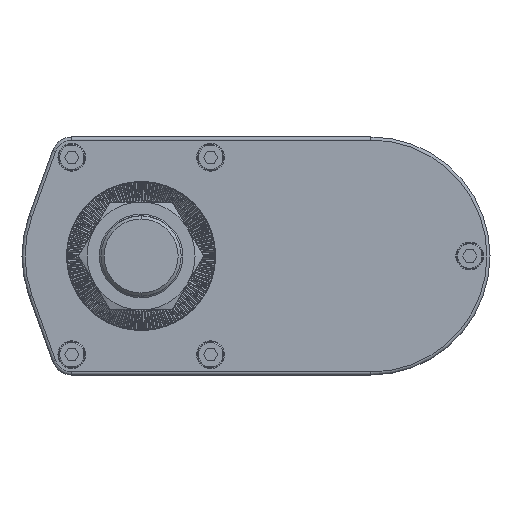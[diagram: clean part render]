
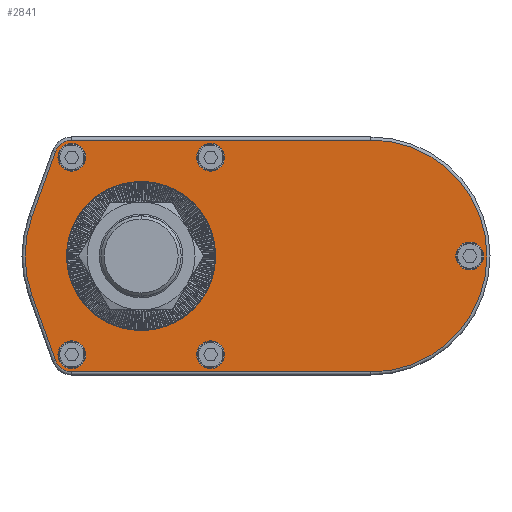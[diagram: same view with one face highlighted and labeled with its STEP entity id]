
A CAD part, left-side view. The second image highlights one B-rep face of the part: STEP entity #2841.
In plain terms, the highlighted planar face has unit normal (-1, 0, 0).
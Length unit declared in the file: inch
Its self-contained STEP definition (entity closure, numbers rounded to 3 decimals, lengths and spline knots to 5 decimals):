
#2841=ADVANCED_FACE('',(#6754,#6755,#6756,#6757,#6758,#6759,#6760),#6761,.F.);
#6754=FACE_BOUND('',#12010,.T.);
#6755=FACE_BOUND('',#12011,.T.);
#6756=FACE_BOUND('',#12012,.T.);
#6757=FACE_BOUND('',#12013,.T.);
#6758=FACE_BOUND('',#12014,.T.);
#6759=FACE_BOUND('',#12015,.T.);
#6760=FACE_OUTER_BOUND('',#12016,.T.);
#6761=PLANE('',#12017);
#12010=EDGE_LOOP('',(#20492,#20493));
#12011=EDGE_LOOP('',(#20494,#20495));
#12012=EDGE_LOOP('',(#20496,#20497));
#12013=EDGE_LOOP('',(#20498,#20499));
#12014=EDGE_LOOP('',(#20500,#20501));
#12015=EDGE_LOOP('',(#20502,#20503));
#12016=EDGE_LOOP('',(#20504,#20505,#20506,#20507,#20508,#20509,#20510,#20511));
#12017=AXIS2_PLACEMENT_3D('',#20512,#20513,#20514);
#20492=ORIENTED_EDGE('',*,*,#32853,.F.);
#20493=ORIENTED_EDGE('',*,*,#32854,.F.);
#20494=ORIENTED_EDGE('',*,*,#32855,.T.);
#20495=ORIENTED_EDGE('',*,*,#32856,.T.);
#20496=ORIENTED_EDGE('',*,*,#31248,.T.);
#20497=ORIENTED_EDGE('',*,*,#32857,.T.);
#20498=ORIENTED_EDGE('',*,*,#32858,.T.);
#20499=ORIENTED_EDGE('',*,*,#32859,.T.);
#20500=ORIENTED_EDGE('',*,*,#32860,.T.);
#20501=ORIENTED_EDGE('',*,*,#31695,.T.);
#20502=ORIENTED_EDGE('',*,*,#32861,.T.);
#20503=ORIENTED_EDGE('',*,*,#32862,.T.);
#20504=ORIENTED_EDGE('',*,*,#32863,.T.);
#20505=ORIENTED_EDGE('',*,*,#32864,.T.);
#20506=ORIENTED_EDGE('',*,*,#32865,.T.);
#20507=ORIENTED_EDGE('',*,*,#32695,.T.);
#20508=ORIENTED_EDGE('',*,*,#32866,.T.);
#20509=ORIENTED_EDGE('',*,*,#32867,.T.);
#20510=ORIENTED_EDGE('',*,*,#32868,.T.);
#20511=ORIENTED_EDGE('',*,*,#32869,.T.);
#20512=CARTESIAN_POINT('',(0.0,-2.93307,0.0));
#20513=DIRECTION('',(1.0,0.0,0.0));
#20514=DIRECTION('',(0.0,1.0,-0.0));
#31248=EDGE_CURVE('',#37787,#37791,#37793,.T.);
#31695=EDGE_CURVE('',#38508,#38506,#38509,.T.);
#32695=EDGE_CURVE('',#40038,#40036,#40039,.F.);
#32853=EDGE_CURVE('',#40267,#40268,#40269,.F.);
#32854=EDGE_CURVE('',#40268,#40267,#40270,.F.);
#32855=EDGE_CURVE('',#40271,#40272,#40273,.T.);
#32856=EDGE_CURVE('',#40272,#40271,#40274,.T.);
#32857=EDGE_CURVE('',#37791,#37787,#40275,.T.);
#32858=EDGE_CURVE('',#40276,#40277,#40278,.T.);
#32859=EDGE_CURVE('',#40277,#40276,#40279,.T.);
#32860=EDGE_CURVE('',#38506,#38508,#40280,.T.);
#32861=EDGE_CURVE('',#40281,#40282,#40283,.T.);
#32862=EDGE_CURVE('',#40282,#40281,#40284,.T.);
#32863=EDGE_CURVE('',#40285,#40286,#40287,.F.);
#32864=EDGE_CURVE('',#40286,#40288,#40289,.F.);
#32865=EDGE_CURVE('',#40288,#40038,#40290,.F.);
#32866=EDGE_CURVE('',#40036,#40291,#40292,.F.);
#32867=EDGE_CURVE('',#40291,#40293,#40294,.F.);
#32868=EDGE_CURVE('',#40293,#40295,#40296,.F.);
#32869=EDGE_CURVE('',#40295,#40285,#40297,.F.);
#37787=VERTEX_POINT('',#46583);
#37791=VERTEX_POINT('',#46588);
#37793=CIRCLE('',#46591,0.17717);
#38506=VERTEX_POINT('',#47555);
#38508=VERTEX_POINT('',#47558);
#38509=CIRCLE('',#47559,0.17717);
#40036=VERTEX_POINT('',#49675);
#40038=VERTEX_POINT('',#49677);
#40039=LINE('',#49678,#49679);
#40267=VERTEX_POINT('',#49973);
#40268=VERTEX_POINT('',#49974);
#40269=CIRCLE('',#49975,0.94882);
#40270=CIRCLE('',#49976,0.94882);
#40271=VERTEX_POINT('',#49977);
#40272=VERTEX_POINT('',#49978);
#40273=CIRCLE('',#49979,0.17717);
#40274=CIRCLE('',#49980,0.17717);
#40275=CIRCLE('',#49981,0.17717);
#40276=VERTEX_POINT('',#49982);
#40277=VERTEX_POINT('',#49983);
#40278=CIRCLE('',#49984,0.17717);
#40279=CIRCLE('',#49985,0.17717);
#40280=CIRCLE('',#49986,0.17717);
#40281=VERTEX_POINT('',#49987);
#40282=VERTEX_POINT('',#49988);
#40283=CIRCLE('',#49989,0.17717);
#40284=CIRCLE('',#49990,0.17717);
#40285=VERTEX_POINT('',#49991);
#40286=VERTEX_POINT('',#49992);
#40287=CIRCLE('',#49993,1.48031);
#40288=VERTEX_POINT('',#49994);
#40289=LINE('',#49995,#49996);
#40290=CIRCLE('',#49997,0.22047);
#40291=VERTEX_POINT('',#49998);
#40292=CIRCLE('',#49999,1.48031);
#40293=VERTEX_POINT('',#50000);
#40294=LINE('',#50001,#50002);
#40295=VERTEX_POINT('',#50003);
#40296=CIRCLE('',#50004,0.22047);
#40297=LINE('',#50005,#50006);
#46583=CARTESIAN_POINT('',(0.0,0.88425,1.08268));
#46588=CARTESIAN_POINT('',(0.0,0.88425,1.43701));
#46591=AXIS2_PLACEMENT_3D('',#56069,#56070,#56071);
#47555=CARTESIAN_POINT('',(0.0,-0.8874,1.08268));
#47558=CARTESIAN_POINT('',(0.0,-0.8874,1.43701));
#47559=AXIS2_PLACEMENT_3D('',#56647,#56648,#56649);
#49675=CARTESIAN_POINT('',(0.0,-2.93307,-1.48031));
#49677=CARTESIAN_POINT('',(0.0,0.88425,-1.48031));
#49678=CARTESIAN_POINT('',(0.0,-2.93307,-1.48031));
#49679=VECTOR('',#57877,39.37008);
#49973=CARTESIAN_POINT('',(0.0,0.0,-0.94882));
#49974=CARTESIAN_POINT('',(0.0,0.,0.94882));
#49975=AXIS2_PLACEMENT_3D('',#58127,#58128,#58129);
#49976=AXIS2_PLACEMENT_3D('',#58130,#58131,#58132);
#49977=CARTESIAN_POINT('',(0.0,-4.19449,-0.17717));
#49978=CARTESIAN_POINT('',(0.0,-4.19449,0.17717));
#49979=AXIS2_PLACEMENT_3D('',#58133,#58134,#58135);
#49980=AXIS2_PLACEMENT_3D('',#58136,#58137,#58138);
#49981=AXIS2_PLACEMENT_3D('',#58139,#58140,#58141);
#49982=CARTESIAN_POINT('',(0.0,-0.8874,-1.43701));
#49983=CARTESIAN_POINT('',(0.0,-0.8874,-1.08268));
#49984=AXIS2_PLACEMENT_3D('',#58142,#58143,#58144);
#49985=AXIS2_PLACEMENT_3D('',#58145,#58146,#58147);
#49986=AXIS2_PLACEMENT_3D('',#58148,#58149,#58150);
#49987=CARTESIAN_POINT('',(0.0,0.88425,-1.43701));
#49988=CARTESIAN_POINT('',(0.0,0.88425,-1.08268));
#49989=AXIS2_PLACEMENT_3D('',#58151,#58152,#58153);
#49990=AXIS2_PLACEMENT_3D('',#58154,#58155,#58156);
#49991=CARTESIAN_POINT('',(0.0,1.39217,0.50319));
#49992=CARTESIAN_POINT('',(0.0,1.39217,-0.50319));
#49993=AXIS2_PLACEMENT_3D('',#58157,#58158,#58159);
#49994=CARTESIAN_POINT('',(0.0,1.0916,-1.33479));
#49995=CARTESIAN_POINT('',(0.0,1.0916,-1.33479));
#49996=VECTOR('',#58160,39.37008);
#49997=AXIS2_PLACEMENT_3D('',#58161,#58162,#58163);
#49998=CARTESIAN_POINT('',(0.0,-2.93307,1.48031));
#49999=AXIS2_PLACEMENT_3D('',#58164,#58165,#58166);
#50000=CARTESIAN_POINT('',(0.0,0.88425,1.48031));
#50001=CARTESIAN_POINT('',(0.0,0.88425,1.48031));
#50002=VECTOR('',#58167,39.37008);
#50003=CARTESIAN_POINT('',(0.0,1.0916,1.33479));
#50004=AXIS2_PLACEMENT_3D('',#58168,#58169,#58170);
#50005=CARTESIAN_POINT('',(0.0,1.39217,0.50319));
#50006=VECTOR('',#58171,39.37008);
#56069=CARTESIAN_POINT('',(0.0,0.88425,1.25984));
#56070=DIRECTION('',(1.0,0.0,0.0));
#56071=DIRECTION('',(0.0,0.0,-1.0));
#56647=CARTESIAN_POINT('',(0.0,-0.8874,1.25984));
#56648=DIRECTION('',(1.0,0.0,0.0));
#56649=DIRECTION('',(0.0,0.0,-1.0));
#57877=DIRECTION('',(0.0,1.0,0.0));
#58127=CARTESIAN_POINT('',(0.0,0.0,0.0));
#58128=DIRECTION('',(1.0,0.0,0.0));
#58129=DIRECTION('',(0.0,0.0,-1.0));
#58130=CARTESIAN_POINT('',(0.0,0.0,0.0));
#58131=DIRECTION('',(1.0,0.0,0.0));
#58132=DIRECTION('',(0.0,0.0,-1.0));
#58133=CARTESIAN_POINT('',(0.0,-4.19449,0.0));
#58134=DIRECTION('',(1.0,0.0,0.0));
#58135=DIRECTION('',(0.0,0.0,-1.0));
#58136=CARTESIAN_POINT('',(0.0,-4.19449,0.0));
#58137=DIRECTION('',(1.0,0.0,0.0));
#58138=DIRECTION('',(0.0,0.0,-1.0));
#58139=CARTESIAN_POINT('',(0.0,0.88425,1.25984));
#58140=DIRECTION('',(1.0,0.0,0.0));
#58141=DIRECTION('',(0.0,0.0,-1.0));
#58142=CARTESIAN_POINT('',(0.0,-0.8874,-1.25984));
#58143=DIRECTION('',(1.0,0.0,0.0));
#58144=DIRECTION('',(0.0,0.0,-1.0));
#58145=CARTESIAN_POINT('',(0.0,-0.8874,-1.25984));
#58146=DIRECTION('',(1.0,0.0,0.0));
#58147=DIRECTION('',(0.0,0.0,-1.0));
#58148=CARTESIAN_POINT('',(0.0,-0.8874,1.25984));
#58149=DIRECTION('',(1.0,0.0,0.0));
#58150=DIRECTION('',(0.0,0.0,-1.0));
#58151=CARTESIAN_POINT('',(0.0,0.88425,-1.25984));
#58152=DIRECTION('',(1.0,0.0,0.0));
#58153=DIRECTION('',(0.0,0.0,-1.0));
#58154=CARTESIAN_POINT('',(0.0,0.88425,-1.25984));
#58155=DIRECTION('',(1.0,0.0,0.0));
#58156=DIRECTION('',(0.0,0.0,-1.0));
#58157=CARTESIAN_POINT('',(0.0,0.,0.0));
#58158=DIRECTION('',(1.0,0.0,0.0));
#58159=DIRECTION('',(0.0,0.0,-1.0));
#58160=DIRECTION('',(0.0,0.34,0.94));
#58161=CARTESIAN_POINT('',(0.0,0.88425,-1.25984));
#58162=DIRECTION('',(1.0,0.0,0.0));
#58163=DIRECTION('',(0.0,0.0,-1.0));
#58164=CARTESIAN_POINT('',(0.0,-2.93307,0.0));
#58165=DIRECTION('',(1.0,0.0,0.0));
#58166=DIRECTION('',(0.0,0.0,-1.0));
#58167=DIRECTION('',(0.0,-1.0,0.0));
#58168=CARTESIAN_POINT('',(0.0,0.88425,1.25984));
#58169=DIRECTION('',(1.0,0.0,0.0));
#58170=DIRECTION('',(0.0,0.0,-1.0));
#58171=DIRECTION('',(0.0,-0.34,0.94));
